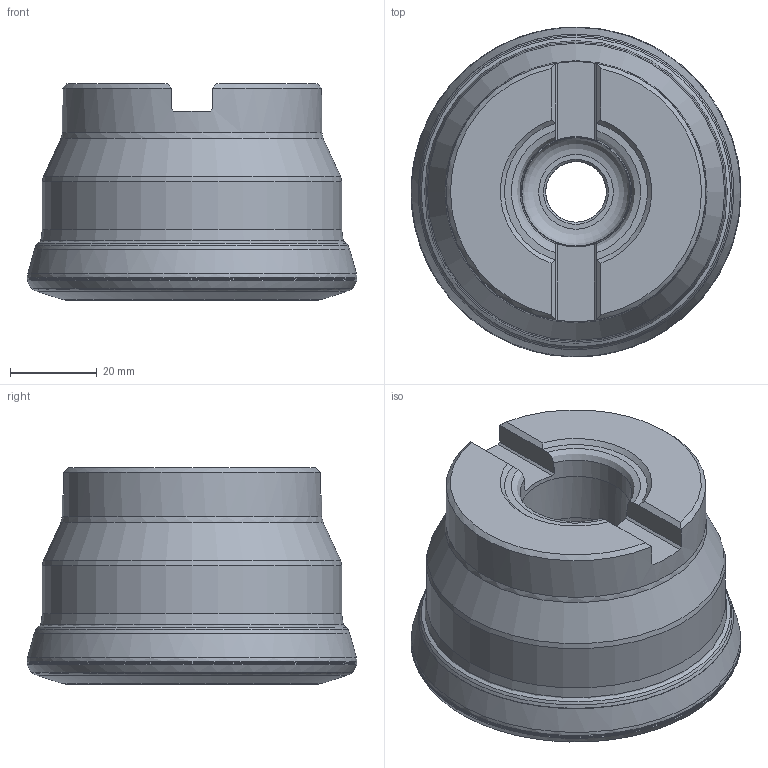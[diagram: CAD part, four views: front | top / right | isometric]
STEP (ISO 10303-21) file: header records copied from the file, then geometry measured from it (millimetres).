
FILE_DESCRIPTION(/* description */ (''),/* implementation_level */ '2;1');
FILE_NAME(/* name */ 'xmr03-3.00''''-a1.00''''-sn12-07c.stp',/* time_stamp */ '2023-03-05T11:00:31+08:00',/* author */ (''),/* organization */ (''),/* preprocessor_version */ 'ST-DEVELOPER v16.7',/* originating_system */ 'SIEMENS PLM Software NX 12.0',/* authorisation */ '');
FILE_SCHEMA (('AUTOMOTIVE_DESIGN { 1 0 10303 214 3 1 1 1 }'));
Length unit declared in the file: millimetre
Products named in the file (1): xinx2650453B10zb
Bounding box: 76.22 x 76.22 x 50.01 mm (x, y, z)
Volume: 174352.7 mm3; surface area: 28667 mm2
Topology: 2 solids, 2 shells, 92 faces, 216 edges, 130 vertices
Faces by surface type: cone 30, torus 26, plane 20, cylinder 10, revolution 6
Full cylindrical faces by diameter (mm): 14 x1, 21 x1, 25.4 x1, 27.4 x1, 60 x1, 69.166 x1
Entity records: 3021 total; most frequent: CARTESIAN_POINT 1367, DIRECTION 310, ORIENTED_EDGE 260, EDGE_LOOP 158, AXIS2_PLACEMENT_3D 140, FACE_BOUND 134, EDGE_CURVE 130, VERTEX_POINT 106
